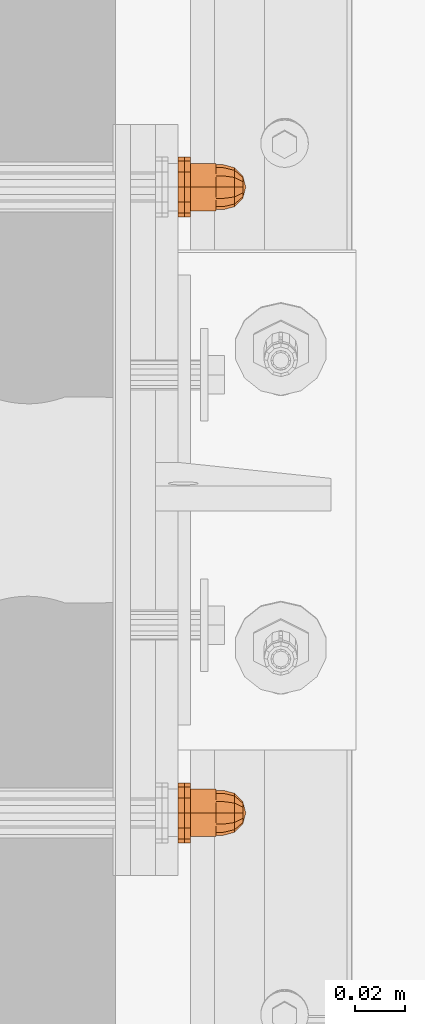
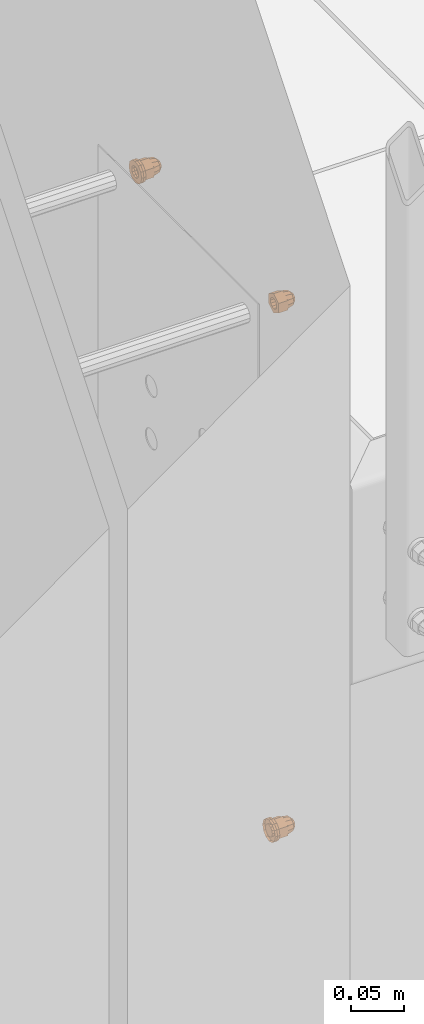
# One storey, part 111 of 162: 7 proxies.
"""IFC2X3 building model written with IfcOpenShell, lengths in millimetres."""

from ifc_helpers import new_model, entity, si_unit, converted_unit, origin_with_axes, place, context, project, spatial, faceted_brep, material, element, save


model = new_model("IFC2X3")

# Units and contexts
model_context = context("Model", 3, precision=1e-09, world=origin_with_axes())
ifc_project = project(units=[si_unit("LENGTHUNIT", "METRE", prefix="MILLI"), si_unit("AREAUNIT", "SQUARE_METRE"), si_unit("VOLUMEUNIT", "CUBIC_METRE"), converted_unit("PLANEANGLEUNIT", "DEGREE", entity("IfcPlaneAngleMeasure", 0.01745329), si_unit("PLANEANGLEUNIT", "RADIAN"), dimensions=[0, 0, 0, 0, 0, 0, 0])], contexts=[model_context])

# Site, building, storey
site_placement = place(None, origin_with_axes())
site = spatial("IfcSite", under=ifc_project, at=site_placement, Name="Hermannstra?e 1a, 60318 Frankfurt", CompositionType="ELEMENT")
building_placement = place(site_placement, origin_with_axes())
building = spatial("IfcBuilding", under=site, at=building_placement, Name="Struktur 1", CompositionType="ELEMENT")
storey_placement = place(building_placement, origin_with_axes())
storey = spatial("IfcBuildingStorey", under=building, at=storey_placement, Name="Default Storey", CompositionType="ELEMENT", Elevation=0.0)

# Proxies
ifc_material_1 = material(Name="Kunststoff")
proxy_1_placement = place(None, origin_with_axes())
element("IfcBuildingElementProxy", 1, at=proxy_1_placement, inside=storey, material=ifc_material_1, ObjectType="-", context=model_context, shape_type="Brep", body=[
    faceted_brep([(2548.310071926, 1691.002385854, 14767.999), (2550.810071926, 1691.002385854, 14767.999), (2550.810071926, 1692.610081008, 14761.999), (2548.310071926, 1692.610081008, 14761.999), (2548.310071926, 1686.239246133, 14765.249), (2548.310071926, 1683.860081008, 14767.628165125), (2548.310071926, 1680.610081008, 14768.499), (2548.310071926, 1677.360081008, 14767.628165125), (2548.310071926, 1674.980915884, 14765.249), (2548.310071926, 1674.110081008, 14761.999), (2548.310071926, 1674.980915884, 14758.749), (2548.310071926, 1677.360081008, 14756.369834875), (2548.310071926, 1680.610081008, 14755.499), (2548.310071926, 1683.860081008, 14756.369834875), (2548.310071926, 1686.239246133, 14758.749), (2548.310071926, 1687.110081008, 14761.999), (2550.810071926, 1687.110081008, 14761.999), (2550.810071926, 1686.239246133, 14765.249), (2550.810071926, 1686.610081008, 14772.391304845), (2550.810071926, 1680.610081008, 14773.999), (2550.810071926, 1674.610081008, 14772.391304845), (2550.810071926, 1670.217776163, 14767.999), (2550.810071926, 1668.610081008, 14761.999), (2550.810071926, 1670.217776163, 14755.999), (2550.810071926, 1674.610081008, 14751.606695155), (2550.810071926, 1680.610081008, 14749.999), (2550.810071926, 1686.610081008, 14751.606695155), (2550.810071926, 1691.002385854, 14755.999), (2548.310071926, 1686.610081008, 14772.391304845), (2550.810071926, 1686.239246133, 14758.749), (2548.310071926, 1691.002385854, 14755.999), (2550.810071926, 1683.860081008, 14767.628165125), (2548.310071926, 1680.610081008, 14773.999), (2550.810071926, 1683.860081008, 14756.369834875), (2548.310071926, 1686.610081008, 14751.606695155), (2550.810071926, 1680.610081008, 14768.499), (2550.810071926, 1680.610081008, 14755.499), (2548.310071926, 1674.610081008, 14772.391304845), (2550.810071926, 1677.360081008, 14767.628165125), (2548.310071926, 1680.610081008, 14749.999), (2550.810071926, 1677.360081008, 14756.369834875), (2548.310071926, 1670.217776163, 14767.999), (2550.810071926, 1674.980915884, 14765.249), (2548.310071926, 1674.610081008, 14751.606695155), (2550.810071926, 1674.980915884, 14758.749), (2548.310071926, 1668.610081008, 14761.999), (2550.810071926, 1674.110081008, 14761.999), (2548.310071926, 1670.217776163, 14755.999)], [[[0, 1, 2, 3]], [[4, 5, 6, 7, 8, 9, 10, 11, 12, 13, 14, 15]], [[15, 16, 17, 4]], [[1, 18, 19, 20, 21, 22, 23, 24, 25, 26, 27, 2]], [[1, 0, 28, 18]], [[16, 15, 14, 29]], [[3, 2, 27, 30]], [[4, 17, 31, 5]], [[18, 28, 32, 19]], [[29, 14, 13, 33]], [[30, 27, 26, 34]], [[5, 31, 35, 6]], [[33, 13, 12, 36]], [[19, 32, 37, 20]], [[6, 35, 38, 7]], [[34, 26, 25, 39]], [[36, 12, 11, 40]], [[20, 37, 41, 21]], [[7, 38, 42, 8]], [[39, 25, 24, 43]], [[40, 11, 10, 44]], [[21, 41, 45, 22]], [[8, 42, 46, 9]], [[43, 24, 23, 47]], [[44, 10, 9, 46]], [[22, 45, 47, 23]]]),
])
ifc_material_2 = material(Name="A4")
proxy_2_placement = place(None, origin_with_axes())
element("IfcBuildingElementProxy", 2, at=proxy_2_placement, inside=storey, material=ifc_material_2, ObjectType="-", context=model_context, shape_type="Brep", body=[
    faceted_brep([(2550.810071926, 1670.217776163, 14767.999), (2553.310071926, 1670.217776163, 14767.999), (2553.310071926, 1674.610081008, 14772.391304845), (2550.810071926, 1674.610081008, 14772.391304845), (2553.310071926, 1668.610081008, 14761.999), (2553.310071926, 1670.217776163, 14755.999), (2553.310071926, 1674.610081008, 14751.606695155), (2553.310071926, 1680.610081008, 14749.999), (2553.310071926, 1686.610081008, 14751.606695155), (2553.310071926, 1691.002385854, 14755.999), (2553.310071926, 1692.610081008, 14761.999), (2553.310071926, 1691.002385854, 14767.999), (2553.310071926, 1686.610081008, 14772.391304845), (2553.310071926, 1680.610081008, 14773.999), (2553.310071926, 1680.610081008, 14768.499), (2553.310071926, 1683.860081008, 14767.628165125), (2553.310071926, 1686.239246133, 14765.249), (2553.310071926, 1687.110081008, 14761.999), (2553.310071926, 1686.239246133, 14758.749), (2553.310071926, 1683.860081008, 14756.369834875), (2553.310071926, 1680.610081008, 14755.499), (2553.310071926, 1677.360081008, 14756.369834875), (2553.310071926, 1674.980915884, 14758.749), (2553.310071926, 1674.110081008, 14761.999), (2553.310071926, 1674.980915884, 14765.249), (2553.310071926, 1677.360081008, 14767.628165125), (2550.810071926, 1674.980915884, 14765.249), (2550.810071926, 1674.110081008, 14761.999), (2550.810071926, 1674.980915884, 14758.749), (2550.810071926, 1677.360081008, 14756.369834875), (2550.810071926, 1680.610081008, 14755.499), (2550.810071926, 1683.860081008, 14756.369834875), (2550.810071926, 1686.239246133, 14758.749), (2550.810071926, 1687.110081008, 14761.999), (2550.810071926, 1686.239246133, 14765.249), (2550.810071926, 1683.860081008, 14767.628165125), (2550.810071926, 1680.610081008, 14768.499), (2550.810071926, 1677.360081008, 14767.628165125), (2550.810071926, 1668.610081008, 14761.999), (2550.810071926, 1680.610081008, 14773.999), (2550.810071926, 1670.217776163, 14755.999), (2550.810071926, 1686.610081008, 14772.391304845), (2550.810071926, 1674.610081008, 14751.606695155), (2550.810071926, 1691.002385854, 14767.999), (2550.810071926, 1680.610081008, 14749.999), (2550.810071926, 1692.610081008, 14761.999), (2550.810071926, 1686.610081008, 14751.606695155), (2550.810071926, 1691.002385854, 14755.999)], [[[0, 1, 2, 3]], [[2, 1, 4, 5, 6, 7, 8, 9, 10, 11, 12, 13], [14, 15, 16, 17, 18, 19, 20, 21, 22, 23, 24, 25]], [[26, 27, 28, 29, 30, 31, 32, 33, 34, 35, 36, 37]], [[24, 26, 37, 25]], [[1, 0, 38, 4]], [[26, 24, 23, 27]], [[25, 37, 36, 14]], [[3, 2, 13, 39]], [[4, 38, 40, 5]], [[27, 23, 22, 28]], [[14, 36, 35, 15]], [[39, 13, 12, 41]], [[5, 40, 42, 6]], [[28, 22, 21, 29]], [[15, 35, 34, 16]], [[41, 12, 11, 43]], [[33, 17, 16, 34]], [[6, 42, 44, 7]], [[29, 21, 20, 30]], [[32, 18, 17, 33]], [[43, 11, 10, 45]], [[19, 31, 30, 20]], [[18, 32, 31, 19]], [[7, 44, 46, 8]], [[45, 10, 9, 47]], [[8, 46, 47, 9]]]),
])
proxy_3_placement = place(None, origin_with_axes())
element("IfcBuildingElementProxy", 3, at=proxy_3_placement, inside=storey, material=ifc_material_2, ObjectType="-", context=model_context, shape_type="Brep", body=[
    faceted_brep([(2563.310071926, 1686.610081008, 14761.999), (2553.310071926, 1686.610081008, 14761.999), (2553.310071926, 1685.806233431, 14758.999), (2563.310071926, 1685.806233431, 14758.999), (2553.310071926, 1683.610081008, 14756.802847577), (2563.310071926, 1683.610081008, 14756.802847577), (2563.310071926, 1685.806233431, 14764.999), (2553.310071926, 1685.806233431, 14764.999), (2553.310071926, 1690.089950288, 14767.472205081), (2553.310071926, 1690.089950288, 14756.525794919), (2553.310071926, 1680.610081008, 14751.052589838), (2553.310071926, 1671.130211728, 14756.525794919), (2553.310071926, 1671.130211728, 14767.472205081), (2553.310071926, 1680.610081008, 14772.945410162), (2553.310071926, 1683.610081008, 14767.195152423), (2553.310071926, 1680.610081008, 14767.999), (2553.310071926, 1677.610081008, 14767.195152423), (2553.310071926, 1675.413928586, 14764.999), (2553.310071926, 1674.610081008, 14761.999), (2553.310071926, 1675.413928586, 14758.999), (2553.310071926, 1677.610081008, 14756.802847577), (2553.310071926, 1680.610081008, 14755.999), (2563.310071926, 1690.089950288, 14767.472205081), (2563.310071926, 1680.610081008, 14772.945410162), (2563.310071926, 1671.130211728, 14767.472205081), (2563.310071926, 1671.130211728, 14756.525794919), (2563.310071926, 1680.610081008, 14751.052589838), (2563.310071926, 1690.089950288, 14756.525794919), (2563.310071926, 1683.610081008, 14767.195152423), (2563.310071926, 1680.610081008, 14755.999), (2563.310071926, 1680.610081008, 14767.999), (2563.310071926, 1677.610081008, 14756.802847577), (2563.310071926, 1677.610081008, 14767.195152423), (2563.310071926, 1675.413928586, 14758.999), (2563.310071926, 1675.413928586, 14764.999), (2563.310071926, 1674.610081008, 14761.999)], [[[0, 1, 2, 3]], [[3, 2, 4, 5]], [[1, 0, 6, 7]], [[8, 9, 10, 11, 12, 13], [7, 14, 15, 16, 17, 18, 19, 20, 21, 4, 2, 1]], [[22, 23, 24, 25, 26, 27]], [[7, 6, 28, 14]], [[22, 27, 9, 8]], [[5, 4, 21, 29]], [[10, 9, 27, 26]], [[14, 28, 30, 15]], [[23, 22, 8, 13]], [[29, 21, 20, 31]], [[11, 10, 26, 25]], [[15, 30, 32, 16]], [[24, 23, 13, 12]], [[31, 20, 19, 33]], [[25, 24, 12, 11]], [[16, 32, 34, 17]], [[33, 19, 18, 35]], [[17, 34, 35, 18]]]),
    faceted_brep([(2566.310071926, 1680.610081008, 14770.999), (2563.310071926, 1680.610081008, 14770.999), (2563.310071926, 1676.110081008, 14769.793228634), (2566.310071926, 1676.110081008, 14769.793228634), (2566.310071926, 1685.110081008, 14769.793228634), (2563.310071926, 1685.110081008, 14769.793228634), (2566.310071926, 1685.110081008, 14754.204771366), (2566.310071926, 1688.404309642, 14757.499), (2566.310071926, 1689.610081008, 14761.999), (2566.310071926, 1688.404309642, 14766.499), (2566.310071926, 1672.815852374, 14766.499), (2566.310071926, 1671.610081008, 14761.999), (2566.310071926, 1672.815852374, 14757.499), (2566.310071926, 1676.110081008, 14754.204771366), (2566.310071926, 1680.610081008, 14752.999), (2563.310071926, 1676.110081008, 14754.204771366), (2563.310071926, 1672.815852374, 14757.499), (2563.310071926, 1671.610081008, 14761.999), (2563.310071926, 1672.815852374, 14766.499), (2563.310071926, 1688.404309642, 14766.499), (2563.310071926, 1689.610081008, 14761.999), (2563.310071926, 1688.404309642, 14757.499), (2563.310071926, 1685.110081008, 14754.204771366), (2563.310071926, 1680.610081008, 14752.999)], [[[0, 1, 2, 3]], [[1, 0, 4, 5]], [[6, 7, 8, 9, 4, 0, 3, 10, 11, 12, 13, 14]], [[15, 16, 17, 18, 2, 1, 5, 19, 20, 21, 22, 23]], [[3, 2, 18, 10]], [[5, 4, 9, 19]], [[10, 18, 17, 11]], [[19, 9, 8, 20]], [[22, 6, 14, 23]], [[7, 21, 20, 8]], [[6, 22, 21, 7]], [[11, 17, 16, 12]], [[23, 14, 13, 15]], [[12, 16, 15, 13]]]),
    faceted_brep([(2570.810071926, 1687.360081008, 14765.896114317), (2566.310071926, 1688.404309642, 14766.499), (2566.310071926, 1685.110081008, 14769.793228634), (2570.810071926, 1684.507195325, 14768.749), (2566.310071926, 1676.110081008, 14754.204771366), (2566.310071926, 1672.815852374, 14757.499), (2566.310071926, 1671.610081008, 14761.999), (2566.310071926, 1672.815852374, 14766.499), (2566.310071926, 1676.110081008, 14769.793228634), (2566.310071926, 1680.610081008, 14770.999), (2566.310071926, 1689.610081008, 14761.999), (2566.310071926, 1688.404309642, 14757.499), (2566.310071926, 1685.110081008, 14754.204771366), (2566.310071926, 1680.610081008, 14752.999), (2570.810071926, 1680.610081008, 14769.793228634), (2574.104300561, 1685.110081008, 14761.999), (2570.810071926, 1688.404309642, 14761.999), (2574.104300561, 1684.507195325, 14764.249), (2570.810071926, 1676.712966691, 14768.749), (2574.104300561, 1682.860081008, 14765.896114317), (2574.104300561, 1684.507195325, 14759.749), (2570.810071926, 1687.360081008, 14758.101885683), (2574.104300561, 1680.610081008, 14766.499), (2575.310071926, 1680.610081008, 14761.999), (2574.104300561, 1682.860081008, 14758.101885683), (2570.810071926, 1684.507195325, 14755.249), (2570.810071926, 1680.610081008, 14754.204771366), (2570.810071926, 1673.860081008, 14765.896114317), (2574.104300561, 1678.360081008, 14765.896114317), (2574.104300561, 1680.610081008, 14757.499), (2570.810071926, 1676.712966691, 14755.249), (2574.104300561, 1678.360081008, 14758.101885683), (2570.810071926, 1672.815852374, 14761.999), (2574.104300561, 1676.712966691, 14764.249), (2570.810071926, 1673.860081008, 14758.101885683), (2574.104300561, 1676.712966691, 14759.749), (2574.104300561, 1676.110081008, 14761.999)], [[[0, 1, 2, 3]], [[4, 5, 6, 7, 8, 9, 2, 1, 10, 11, 12, 13]], [[3, 2, 9, 14]], [[15, 16, 0, 17]], [[1, 0, 16, 10]], [[14, 9, 8, 18]], [[17, 0, 3, 19]], [[16, 15, 20, 21]], [[19, 3, 14, 22]], [[17, 23, 15]], [[24, 25, 21, 20]], [[15, 23, 20]], [[12, 25, 26, 13]], [[11, 21, 25, 12]], [[10, 16, 21, 11]], [[18, 8, 7, 27]], [[22, 14, 18, 28]], [[19, 23, 17]], [[29, 26, 25, 24]], [[20, 23, 24]], [[22, 23, 19]], [[13, 26, 30, 4]], [[26, 29, 31, 30]], [[24, 23, 29]], [[27, 7, 6, 32]], [[28, 18, 27, 33]], [[28, 23, 22]], [[29, 23, 31]], [[33, 23, 28]], [[4, 30, 34, 5]], [[30, 31, 35, 34]], [[31, 23, 35]], [[32, 6, 5, 34]], [[33, 27, 32, 36]], [[36, 23, 33]], [[35, 23, 36]], [[34, 35, 36, 32]]]),
])
proxy_4_placement = place(None, origin_with_axes())
element("IfcBuildingElementProxy", 4, at=proxy_4_placement, inside=storey, material=ifc_material_2, ObjectType="-", context=model_context, shape_type="Brep", body=[
    faceted_brep([(2553.310071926, 1936.610081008, 15361.999), (2563.310071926, 1936.610081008, 15361.999), (2563.310071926, 1935.806233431, 15364.999), (2553.310071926, 1935.806233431, 15364.999), (2563.310071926, 1933.610081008, 15367.195152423), (2553.310071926, 1933.610081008, 15367.195152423), (2553.310071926, 1935.806233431, 15358.999), (2563.310071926, 1935.806233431, 15358.999), (2553.310071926, 1940.089950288, 15356.525794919), (2553.310071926, 1930.610081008, 15351.052589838), (2553.310071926, 1921.130211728, 15356.525794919), (2553.310071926, 1921.130211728, 15367.472205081), (2553.310071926, 1930.610081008, 15372.945410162), (2553.310071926, 1940.089950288, 15367.472205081), (2553.310071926, 1933.610081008, 15356.802847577), (2553.310071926, 1930.610081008, 15367.999), (2553.310071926, 1927.610081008, 15367.195152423), (2553.310071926, 1925.413928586, 15364.999), (2553.310071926, 1924.610081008, 15361.999), (2553.310071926, 1925.413928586, 15358.999), (2553.310071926, 1927.610081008, 15356.802847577), (2553.310071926, 1930.610081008, 15355.999), (2563.310071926, 1930.610081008, 15351.052589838), (2563.310071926, 1940.089950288, 15356.525794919), (2563.310071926, 1940.089950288, 15367.472205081), (2563.310071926, 1930.610081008, 15372.945410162), (2563.310071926, 1921.130211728, 15367.472205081), (2563.310071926, 1921.130211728, 15356.525794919), (2563.310071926, 1933.610081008, 15356.802847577), (2563.310071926, 1930.610081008, 15355.999), (2563.310071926, 1927.610081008, 15356.802847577), (2563.310071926, 1925.413928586, 15358.999), (2563.310071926, 1924.610081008, 15361.999), (2563.310071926, 1925.413928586, 15364.999), (2563.310071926, 1927.610081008, 15367.195152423), (2563.310071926, 1930.610081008, 15367.999)], [[[0, 1, 2, 3]], [[3, 2, 4, 5]], [[1, 0, 6, 7]], [[8, 9, 10, 11, 12, 13], [14, 6, 0, 3, 5, 15, 16, 17, 18, 19, 20, 21]], [[22, 23, 24, 25, 26, 27], [1, 7, 28, 29, 30, 31, 32, 33, 34, 35, 4, 2]], [[7, 6, 14, 28]], [[24, 23, 8, 13]], [[5, 4, 35, 15]], [[13, 12, 25, 24]], [[28, 14, 21, 29]], [[23, 22, 9, 8]], [[15, 35, 34, 16]], [[12, 11, 26, 25]], [[29, 21, 20, 30]], [[22, 27, 10, 9]], [[16, 34, 33, 17]], [[27, 26, 11, 10]], [[30, 20, 19, 31]], [[17, 33, 32, 18]], [[31, 19, 18, 32]]]),
    faceted_brep([(2563.310071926, 1930.610081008, 15352.999), (2566.310071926, 1930.610081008, 15352.999), (2566.310071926, 1926.110081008, 15354.204771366), (2563.310071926, 1926.110081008, 15354.204771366), (2563.310071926, 1935.110081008, 15354.204771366), (2566.310071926, 1935.110081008, 15354.204771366), (2566.310071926, 1938.404309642, 15366.499), (2566.310071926, 1935.110081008, 15369.793228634), (2566.310071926, 1930.610081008, 15370.999), (2566.310071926, 1926.110081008, 15369.793228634), (2566.310071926, 1922.815852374, 15366.499), (2566.310071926, 1921.610081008, 15361.999), (2566.310071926, 1922.815852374, 15357.499), (2566.310071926, 1938.404309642, 15357.499), (2566.310071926, 1939.610081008, 15361.999), (2563.310071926, 1922.815852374, 15366.499), (2563.310071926, 1926.110081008, 15369.793228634), (2563.310071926, 1930.610081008, 15370.999), (2563.310071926, 1935.110081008, 15369.793228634), (2563.310071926, 1938.404309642, 15366.499), (2563.310071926, 1939.610081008, 15361.999), (2563.310071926, 1938.404309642, 15357.499), (2563.310071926, 1922.815852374, 15357.499), (2563.310071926, 1921.610081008, 15361.999)], [[[0, 1, 2, 3]], [[1, 0, 4, 5]], [[6, 7, 8, 9, 10, 11, 12, 2, 1, 5, 13, 14]], [[15, 16, 17, 18, 19, 20, 21, 4, 0, 3, 22, 23]], [[3, 2, 12, 22]], [[5, 4, 21, 13]], [[22, 12, 11, 23]], [[13, 21, 20, 14]], [[7, 18, 17, 8]], [[19, 6, 14, 20]], [[18, 7, 6, 19]], [[23, 11, 10, 15]], [[8, 17, 16, 9]], [[15, 10, 9, 16]]]),
    faceted_brep([(2566.310071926, 1938.404309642, 15357.499), (2570.810071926, 1937.360081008, 15358.101885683), (2570.810071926, 1934.507195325, 15355.249), (2566.310071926, 1935.110081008, 15354.204771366), (2566.310071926, 1922.815852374, 15366.499), (2566.310071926, 1926.110081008, 15369.793228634), (2566.310071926, 1930.610081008, 15370.999), (2566.310071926, 1935.110081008, 15369.793228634), (2566.310071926, 1938.404309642, 15366.499), (2566.310071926, 1939.610081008, 15361.999), (2566.310071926, 1930.610081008, 15352.999), (2566.310071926, 1926.110081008, 15354.204771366), (2566.310071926, 1922.815852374, 15357.499), (2566.310071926, 1921.610081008, 15361.999), (2570.810071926, 1930.610081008, 15354.204771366), (2570.810071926, 1938.404309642, 15361.999), (2574.104300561, 1935.110081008, 15361.999), (2574.104300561, 1934.507195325, 15359.749), (2570.810071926, 1926.712966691, 15355.249), (2574.104300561, 1932.860081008, 15358.101885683), (2570.810071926, 1937.360081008, 15365.896114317), (2574.104300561, 1934.507195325, 15364.249), (2574.104300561, 1930.610081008, 15357.499), (2575.310071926, 1930.610081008, 15361.999), (2570.810071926, 1934.507195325, 15368.749), (2574.104300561, 1932.860081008, 15365.896114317), (2570.810071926, 1930.610081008, 15369.793228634), (2570.810071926, 1923.860081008, 15358.101885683), (2574.104300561, 1928.360081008, 15358.101885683), (2574.104300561, 1930.610081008, 15366.499), (2570.810071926, 1926.712966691, 15368.749), (2574.104300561, 1928.360081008, 15365.896114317), (2570.810071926, 1922.815852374, 15361.999), (2574.104300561, 1926.712966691, 15359.749), (2570.810071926, 1923.860081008, 15365.896114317), (2574.104300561, 1926.712966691, 15364.249), (2574.104300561, 1926.110081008, 15361.999)], [[[0, 1, 2, 3]], [[4, 5, 6, 7, 8, 9, 0, 3, 10, 11, 12, 13]], [[3, 2, 14, 10]], [[15, 16, 17, 1]], [[1, 0, 9, 15]], [[10, 14, 18, 11]], [[1, 17, 19, 2]], [[16, 15, 20, 21]], [[2, 19, 22, 14]], [[23, 17, 16]], [[24, 25, 21, 20]], [[23, 16, 21]], [[24, 7, 6, 26]], [[20, 8, 7, 24]], [[15, 9, 8, 20]], [[11, 18, 27, 12]], [[14, 22, 28, 18]], [[23, 19, 17]], [[26, 29, 25, 24]], [[23, 21, 25]], [[23, 22, 19]], [[26, 6, 5, 30]], [[29, 26, 30, 31]], [[23, 25, 29]], [[12, 27, 32, 13]], [[18, 28, 33, 27]], [[23, 28, 22]], [[23, 29, 31]], [[23, 33, 28]], [[30, 5, 4, 34]], [[31, 30, 34, 35]], [[23, 31, 35]], [[13, 32, 34, 4]], [[27, 33, 36, 32]], [[23, 36, 33]], [[23, 35, 36]], [[35, 34, 32, 36]]]),
])
proxy_5_placement = place(None, origin_with_axes())
element("IfcBuildingElementProxy", 5, at=proxy_5_placement, inside=storey, material=ifc_material_2, ObjectType="-", context=model_context, shape_type="Brep", body=[
    faceted_brep([(2553.310071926, 1920.217776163, 15355.999), (2550.810071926, 1920.217776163, 15355.999), (2550.810071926, 1924.610081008, 15351.606695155), (2553.310071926, 1924.610081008, 15351.606695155), (2553.310071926, 1930.610081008, 15349.999), (2553.310071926, 1936.610081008, 15351.606695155), (2553.310071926, 1941.002385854, 15355.999), (2553.310071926, 1942.610081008, 15361.999), (2553.310071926, 1941.002385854, 15367.999), (2553.310071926, 1936.610081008, 15372.391304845), (2553.310071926, 1930.610081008, 15373.999), (2553.310071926, 1924.610081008, 15372.391304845), (2553.310071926, 1920.217776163, 15367.999), (2553.310071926, 1918.610081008, 15361.999), (2553.310071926, 1933.860081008, 15356.369834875), (2553.310071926, 1930.610081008, 15355.499), (2553.310071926, 1927.360081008, 15356.369834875), (2553.310071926, 1924.980915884, 15358.749), (2553.310071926, 1924.110081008, 15361.999), (2553.310071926, 1924.980915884, 15365.249), (2553.310071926, 1927.360081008, 15367.628165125), (2553.310071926, 1930.610081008, 15368.499), (2553.310071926, 1933.860081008, 15367.628165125), (2553.310071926, 1936.239246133, 15365.249), (2553.310071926, 1937.110081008, 15361.999), (2553.310071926, 1936.239246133, 15358.749), (2550.810071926, 1918.610081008, 15361.999), (2550.810071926, 1920.217776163, 15367.999), (2550.810071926, 1924.610081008, 15372.391304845), (2550.810071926, 1930.610081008, 15373.999), (2550.810071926, 1936.610081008, 15372.391304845), (2550.810071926, 1941.002385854, 15367.999), (2550.810071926, 1942.610081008, 15361.999), (2550.810071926, 1941.002385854, 15355.999), (2550.810071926, 1936.610081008, 15351.606695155), (2550.810071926, 1930.610081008, 15349.999), (2550.810071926, 1924.110081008, 15361.999), (2550.810071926, 1924.980915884, 15358.749), (2550.810071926, 1927.360081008, 15356.369834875), (2550.810071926, 1930.610081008, 15355.499), (2550.810071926, 1933.860081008, 15356.369834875), (2550.810071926, 1936.239246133, 15358.749), (2550.810071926, 1937.110081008, 15361.999), (2550.810071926, 1936.239246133, 15365.249), (2550.810071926, 1933.860081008, 15367.628165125), (2550.810071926, 1930.610081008, 15368.499), (2550.810071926, 1927.360081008, 15367.628165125), (2550.810071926, 1924.980915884, 15365.249)], [[[0, 1, 2, 3]], [[3, 4, 5, 6, 7, 8, 9, 10, 11, 12, 13, 0], [14, 15, 16, 17, 18, 19, 20, 21, 22, 23, 24, 25]], [[1, 26, 27, 28, 29, 30, 31, 32, 33, 34, 35, 2], [36, 37, 38, 39, 40, 41, 42, 43, 44, 45, 46, 47]], [[37, 17, 16, 38]], [[1, 0, 13, 26]], [[17, 37, 36, 18]], [[38, 16, 15, 39]], [[3, 2, 35, 4]], [[26, 13, 12, 27]], [[18, 36, 47, 19]], [[39, 15, 14, 40]], [[4, 35, 34, 5]], [[27, 12, 11, 28]], [[19, 47, 46, 20]], [[40, 14, 25, 41]], [[5, 34, 33, 6]], [[24, 42, 41, 25]], [[28, 11, 10, 29]], [[20, 46, 45, 21]], [[23, 43, 42, 24]], [[6, 33, 32, 7]], [[44, 22, 21, 45]], [[43, 23, 22, 44]], [[29, 10, 9, 30]], [[7, 32, 31, 8]], [[30, 9, 8, 31]]]),
])
proxy_6_placement = place(None, origin_with_axes())
element("IfcBuildingElementProxy", 6, at=proxy_6_placement, inside=storey, material=ifc_material_1, ObjectType="-", context=model_context, shape_type="Brep", body=[
    faceted_brep([(2550.810071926, 1941.002385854, 15355.999), (2548.310071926, 1941.002385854, 15355.999), (2548.310071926, 1942.610081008, 15361.999), (2550.810071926, 1942.610081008, 15361.999), (2548.310071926, 1936.610081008, 15351.606695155), (2548.310071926, 1930.610081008, 15349.999), (2548.310071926, 1924.610081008, 15351.606695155), (2548.310071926, 1920.217776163, 15355.999), (2548.310071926, 1918.610081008, 15361.999), (2548.310071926, 1920.217776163, 15367.999), (2548.310071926, 1924.610081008, 15372.391304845), (2548.310071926, 1930.610081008, 15373.999), (2548.310071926, 1936.610081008, 15372.391304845), (2548.310071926, 1941.002385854, 15367.999), (2548.310071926, 1933.860081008, 15356.369834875), (2548.310071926, 1936.239246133, 15358.749), (2548.310071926, 1937.110081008, 15361.999), (2548.310071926, 1936.239246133, 15365.249), (2548.310071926, 1933.860081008, 15367.628165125), (2548.310071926, 1930.610081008, 15368.499), (2548.310071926, 1927.360081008, 15367.628165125), (2548.310071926, 1924.980915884, 15365.249), (2548.310071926, 1924.110081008, 15361.999), (2548.310071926, 1924.980915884, 15358.749), (2548.310071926, 1927.360081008, 15356.369834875), (2548.310071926, 1930.610081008, 15355.499), (2550.810071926, 1937.110081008, 15361.999), (2550.810071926, 1936.239246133, 15358.749), (2550.810071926, 1936.610081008, 15351.606695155), (2550.810071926, 1941.002385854, 15367.999), (2550.810071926, 1936.610081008, 15372.391304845), (2550.810071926, 1930.610081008, 15373.999), (2550.810071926, 1924.610081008, 15372.391304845), (2550.810071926, 1920.217776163, 15367.999), (2550.810071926, 1918.610081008, 15361.999), (2550.810071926, 1920.217776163, 15355.999), (2550.810071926, 1924.610081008, 15351.606695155), (2550.810071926, 1930.610081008, 15349.999), (2550.810071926, 1933.860081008, 15356.369834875), (2550.810071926, 1930.610081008, 15355.499), (2550.810071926, 1927.360081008, 15356.369834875), (2550.810071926, 1924.980915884, 15358.749), (2550.810071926, 1924.110081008, 15361.999), (2550.810071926, 1924.980915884, 15365.249), (2550.810071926, 1927.360081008, 15367.628165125), (2550.810071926, 1930.610081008, 15368.499), (2550.810071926, 1933.860081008, 15367.628165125), (2550.810071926, 1936.239246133, 15365.249)], [[[0, 1, 2, 3]], [[1, 4, 5, 6, 7, 8, 9, 10, 11, 12, 13, 2], [14, 15, 16, 17, 18, 19, 20, 21, 22, 23, 24, 25]], [[26, 16, 15, 27]], [[28, 0, 3, 29, 30, 31, 32, 33, 34, 35, 36, 37], [26, 27, 38, 39, 40, 41, 42, 43, 44, 45, 46, 47]], [[1, 0, 28, 4]], [[16, 26, 47, 17]], [[3, 2, 13, 29]], [[27, 15, 14, 38]], [[4, 28, 37, 5]], [[17, 47, 46, 18]], [[29, 13, 12, 30]], [[38, 14, 25, 39]], [[18, 46, 45, 19]], [[5, 37, 36, 6]], [[39, 25, 24, 40]], [[30, 12, 11, 31]], [[19, 45, 44, 20]], [[6, 36, 35, 7]], [[40, 24, 23, 41]], [[31, 11, 10, 32]], [[20, 44, 43, 21]], [[7, 35, 34, 8]], [[41, 23, 22, 42]], [[32, 10, 9, 33]], [[21, 43, 42, 22]], [[8, 34, 33, 9]]]),
])
proxy_7_placement = place(None, origin_with_axes())
element("IfcBuildingElementProxy", 7, at=proxy_7_placement, inside=storey, material=ifc_material_2, ObjectType="-", context=model_context, shape_type="Brep", body=[
    faceted_brep([(2553.310071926, 1686.610081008, 15361.999), (2563.310071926, 1686.610081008, 15361.999), (2563.310071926, 1685.806233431, 15364.999), (2553.310071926, 1685.806233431, 15364.999), (2563.310071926, 1683.610081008, 15367.195152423), (2553.310071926, 1683.610081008, 15367.195152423), (2553.310071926, 1685.806233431, 15358.999), (2563.310071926, 1685.806233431, 15358.999), (2553.310071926, 1690.089950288, 15356.525794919), (2553.310071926, 1680.610081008, 15351.052589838), (2553.310071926, 1671.130211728, 15356.525794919), (2553.310071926, 1671.130211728, 15367.472205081), (2553.310071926, 1680.610081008, 15372.945410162), (2553.310071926, 1690.089950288, 15367.472205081), (2553.310071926, 1683.610081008, 15356.802847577), (2553.310071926, 1680.610081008, 15367.999), (2553.310071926, 1677.610081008, 15367.195152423), (2553.310071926, 1675.413928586, 15364.999), (2553.310071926, 1674.610081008, 15361.999), (2553.310071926, 1675.413928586, 15358.999), (2553.310071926, 1677.610081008, 15356.802847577), (2553.310071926, 1680.610081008, 15355.999), (2563.310071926, 1680.610081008, 15351.052589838), (2563.310071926, 1690.089950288, 15356.525794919), (2563.310071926, 1690.089950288, 15367.472205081), (2563.310071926, 1680.610081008, 15372.945410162), (2563.310071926, 1671.130211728, 15367.472205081), (2563.310071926, 1671.130211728, 15356.525794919), (2563.310071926, 1683.610081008, 15356.802847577), (2563.310071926, 1680.610081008, 15355.999), (2563.310071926, 1677.610081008, 15356.802847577), (2563.310071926, 1675.413928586, 15358.999), (2563.310071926, 1674.610081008, 15361.999), (2563.310071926, 1675.413928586, 15364.999), (2563.310071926, 1677.610081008, 15367.195152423), (2563.310071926, 1680.610081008, 15367.999)], [[[0, 1, 2, 3]], [[3, 2, 4, 5]], [[1, 0, 6, 7]], [[8, 9, 10, 11, 12, 13], [14, 6, 0, 3, 5, 15, 16, 17, 18, 19, 20, 21]], [[22, 23, 24, 25, 26, 27], [1, 7, 28, 29, 30, 31, 32, 33, 34, 35, 4, 2]], [[7, 6, 14, 28]], [[24, 23, 8, 13]], [[5, 4, 35, 15]], [[13, 12, 25, 24]], [[28, 14, 21, 29]], [[23, 22, 9, 8]], [[15, 35, 34, 16]], [[12, 11, 26, 25]], [[29, 21, 20, 30]], [[22, 27, 10, 9]], [[16, 34, 33, 17]], [[27, 26, 11, 10]], [[30, 20, 19, 31]], [[17, 33, 32, 18]], [[31, 19, 18, 32]]]),
    faceted_brep([(2563.310071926, 1680.610081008, 15352.999), (2566.310071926, 1680.610081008, 15352.999), (2566.310071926, 1676.110081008, 15354.204771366), (2563.310071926, 1676.110081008, 15354.204771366), (2563.310071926, 1685.110081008, 15354.204771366), (2566.310071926, 1685.110081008, 15354.204771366), (2566.310071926, 1688.404309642, 15366.499), (2566.310071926, 1685.110081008, 15369.793228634), (2566.310071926, 1680.610081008, 15370.999), (2566.310071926, 1676.110081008, 15369.793228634), (2566.310071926, 1672.815852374, 15366.499), (2566.310071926, 1671.610081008, 15361.999), (2566.310071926, 1672.815852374, 15357.499), (2566.310071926, 1688.404309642, 15357.499), (2566.310071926, 1689.610081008, 15361.999), (2563.310071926, 1672.815852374, 15366.499), (2563.310071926, 1676.110081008, 15369.793228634), (2563.310071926, 1680.610081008, 15370.999), (2563.310071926, 1685.110081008, 15369.793228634), (2563.310071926, 1688.404309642, 15366.499), (2563.310071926, 1689.610081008, 15361.999), (2563.310071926, 1688.404309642, 15357.499), (2563.310071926, 1672.815852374, 15357.499), (2563.310071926, 1671.610081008, 15361.999)], [[[0, 1, 2, 3]], [[1, 0, 4, 5]], [[6, 7, 8, 9, 10, 11, 12, 2, 1, 5, 13, 14]], [[15, 16, 17, 18, 19, 20, 21, 4, 0, 3, 22, 23]], [[3, 2, 12, 22]], [[5, 4, 21, 13]], [[22, 12, 11, 23]], [[13, 21, 20, 14]], [[7, 18, 17, 8]], [[19, 6, 14, 20]], [[18, 7, 6, 19]], [[23, 11, 10, 15]], [[8, 17, 16, 9]], [[15, 10, 9, 16]]]),
    faceted_brep([(2566.310071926, 1688.404309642, 15357.499), (2570.810071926, 1687.360081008, 15358.101885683), (2570.810071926, 1684.507195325, 15355.249), (2566.310071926, 1685.110081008, 15354.204771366), (2566.310071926, 1672.815852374, 15366.499), (2566.310071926, 1676.110081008, 15369.793228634), (2566.310071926, 1680.610081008, 15370.999), (2566.310071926, 1685.110081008, 15369.793228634), (2566.310071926, 1688.404309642, 15366.499), (2566.310071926, 1689.610081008, 15361.999), (2566.310071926, 1680.610081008, 15352.999), (2566.310071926, 1676.110081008, 15354.204771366), (2566.310071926, 1672.815852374, 15357.499), (2566.310071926, 1671.610081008, 15361.999), (2570.810071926, 1680.610081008, 15354.204771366), (2570.810071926, 1688.404309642, 15361.999), (2574.104300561, 1685.110081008, 15361.999), (2574.104300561, 1684.507195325, 15359.749), (2570.810071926, 1676.712966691, 15355.249), (2574.104300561, 1682.860081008, 15358.101885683), (2570.810071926, 1687.360081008, 15365.896114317), (2574.104300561, 1684.507195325, 15364.249), (2574.104300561, 1680.610081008, 15357.499), (2575.310071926, 1680.610081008, 15361.999), (2570.810071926, 1684.507195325, 15368.749), (2574.104300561, 1682.860081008, 15365.896114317), (2570.810071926, 1680.610081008, 15369.793228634), (2570.810071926, 1673.860081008, 15358.101885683), (2574.104300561, 1678.360081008, 15358.101885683), (2574.104300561, 1680.610081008, 15366.499), (2570.810071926, 1676.712966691, 15368.749), (2574.104300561, 1678.360081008, 15365.896114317), (2570.810071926, 1672.815852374, 15361.999), (2574.104300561, 1676.712966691, 15359.749), (2570.810071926, 1673.860081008, 15365.896114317), (2574.104300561, 1676.712966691, 15364.249), (2574.104300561, 1676.110081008, 15361.999)], [[[0, 1, 2, 3]], [[4, 5, 6, 7, 8, 9, 0, 3, 10, 11, 12, 13]], [[3, 2, 14, 10]], [[15, 16, 17, 1]], [[1, 0, 9, 15]], [[10, 14, 18, 11]], [[1, 17, 19, 2]], [[16, 15, 20, 21]], [[2, 19, 22, 14]], [[23, 17, 16]], [[24, 25, 21, 20]], [[23, 16, 21]], [[24, 7, 6, 26]], [[20, 8, 7, 24]], [[15, 9, 8, 20]], [[11, 18, 27, 12]], [[14, 22, 28, 18]], [[23, 19, 17]], [[26, 29, 25, 24]], [[23, 21, 25]], [[23, 22, 19]], [[26, 6, 5, 30]], [[29, 26, 30, 31]], [[23, 25, 29]], [[12, 27, 32, 13]], [[18, 28, 33, 27]], [[23, 28, 22]], [[23, 29, 31]], [[23, 33, 28]], [[30, 5, 4, 34]], [[31, 30, 34, 35]], [[23, 31, 35]], [[13, 32, 34, 4]], [[27, 33, 36, 32]], [[23, 36, 33]], [[23, 35, 36]], [[35, 34, 32, 36]]]),
])

save(model, "model.ifc")
